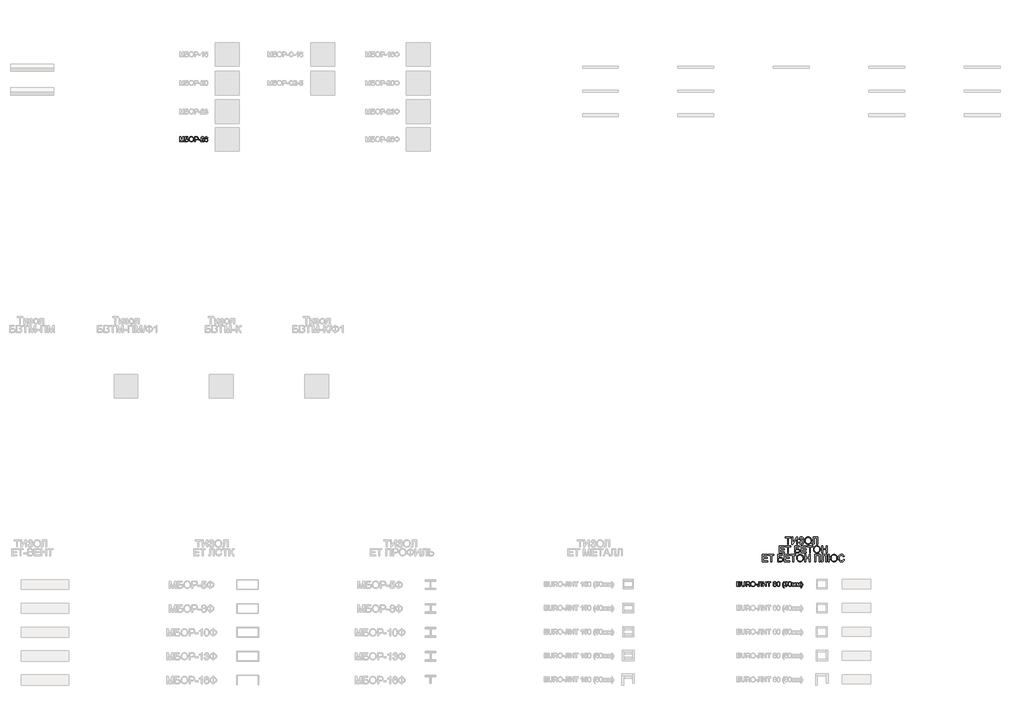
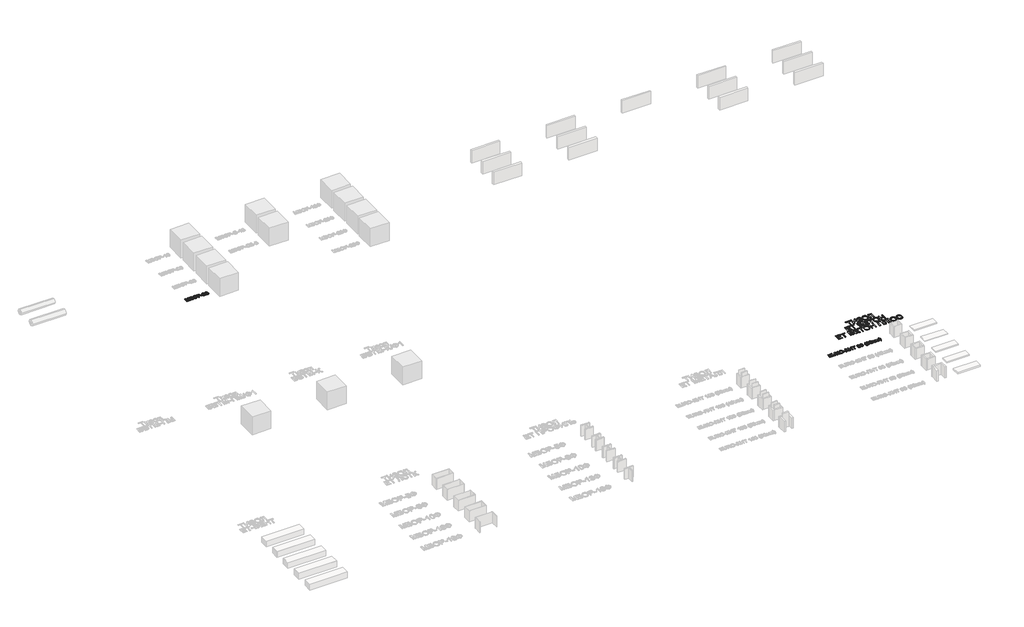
# One storey, part 21 of 35: 3 proxies.
"""IFC4 building model written with IfcOpenShell, lengths in millimetres."""

import ifcopenshell
import ifcopenshell.guid

model = None  # the IFC model being written
_history = None  # IfcOwnerHistory: only IFC2X3 demands one
_inside = {}  # id of a spatial element -> (the spatial element, [elements in it])
_under = {}  # id of a project, library or spatial element -> (it, [spatial elements below it])
_declared = {}  # id of a project -> (the project, [libraries it declares])
_typed = {}  # id of a type object -> (the type object, [elements of that type])
_made_of = {}  # id of a material, layer set ... -> (it, [elements and type objects made of it])


def new_model(schema):
    """Start an empty IFC model of exactly this schema.

    Asked for "IFC4X3", IfcOpenShell would pick the latest addendum, in which some entities
    have other attributes; the version numbers below select the first issue.
    IFC2X3 requires an IfcOwnerHistory on every rooted entity: one is made here for all.
    """
    global model, _history
    if schema == "IFC4X3":
        model = ifcopenshell.file(schema_version=(4, 3, 0, 0))
    else:
        model = ifcopenshell.file(schema=schema)
    _inside.clear()
    _under.clear()
    _declared.clear()
    _typed.clear()
    _made_of.clear()
    _history = None
    if model.schema == "IFC2X3":
        org = make("IfcOrganization", Name="unknown")
        user = make(
            "IfcPersonAndOrganization",
            ThePerson=make("IfcPerson", FamilyName="unknown"),
            TheOrganization=org,
        )
        app = make(
            "IfcApplication",
            ApplicationDeveloper=org,
            Version="unknown",
            ApplicationFullName="unknown",
            ApplicationIdentifier="unknown",
        )
        _history = make(
            "IfcOwnerHistory",
            OwningUser=user,
            OwningApplication=app,
            ChangeAction="ADDED",
            CreationDate=0,
        )
    return model


def make(cls, **values):
    """One entity of the class cls with the attributes given. An attribute that is None is left unset."""
    return model.create_entity(
        cls, **{name: value for name, value in values.items() if value is not None}
    )


def rooted(cls, **values):
    """An entity with a GlobalId (a new one), such as an element, a storey or a relation."""
    return make(cls, GlobalId=ifcopenshell.guid.new(), OwnerHistory=_history, **values)


def si_unit(unit_type, name, prefix=None):
    """IfcSIUnit, for example si_unit("LENGTHUNIT", "METRE", prefix="MILLI")."""
    return make("IfcSIUnit", UnitType=unit_type, Prefix=prefix, Name=name)


def assignment(units):
    """IfcUnitAssignment: the units of a project."""
    return None if units is None else make("IfcUnitAssignment", Units=units)


def point(xyz):
    """IfcCartesianPoint."""
    return None if xyz is None else make("IfcCartesianPoint", Coordinates=xyz)


def direction(xyz):
    """IfcDirection."""
    return None if xyz is None else make("IfcDirection", DirectionRatios=xyz)


def frame(location, z_axis=None, x_axis=None):
    """IfcAxis2Placement3D, a coordinate frame: its origin and axes. An axis left out is left unset."""
    return make(
        "IfcAxis2Placement3D",
        Location=point(location),
        Axis=direction(z_axis),
        RefDirection=direction(x_axis),
    )


def origin():
    """The frame at (0, 0, 0) with its axes left unset."""
    return frame((0.0, 0.0, 0.0))


def origin_with_axes():
    """The frame at (0, 0, 0) with the z axis (0, 0, 1) and the x axis (1, 0, 0) written out."""
    return frame((0.0, 0.0, 0.0), z_axis=(0.0, 0.0, 1.0), x_axis=(1.0, 0.0, 0.0))


def place(relative_to, where):
    """IfcLocalPlacement: puts the frame where relative to a parent placement (None: the world)."""
    return make(
        "IfcLocalPlacement", PlacementRelTo=relative_to, RelativePlacement=where
    )


def context(
    kind, dimensions, precision=None, world=None, true_north=None, identifier=None
):
    """IfcGeometricRepresentationContext, for example the 3D "Model" context."""
    return make(
        "IfcGeometricRepresentationContext",
        ContextIdentifier=identifier,
        ContextType=kind,
        CoordinateSpaceDimension=dimensions,
        Precision=precision,
        WorldCoordinateSystem=world,
        TrueNorth=true_north,
    )


def project(units=None, contexts=None):
    """IfcProject with its units and contexts."""
    return rooted(
        "IfcProject",
        Name="project",
        RepresentationContexts=contexts,
        UnitsInContext=assignment(units),
    )


def spatial(cls, under=None, at=None, **own):
    """A site, building, storey or space (cls), placed at a placement, below another one or the project."""
    s = rooted(cls, ObjectPlacement=at, **own)
    if under is not None:
        _under.setdefault(under.id(), (under, []))[1].append(s)
    return s


def polyline(points):
    """IfcPolyline through the points."""
    return make("IfcPolyline", Points=[point(p) for p in points])


def outline(outer, holes=None, kind="AREA"):
    """IfcArbitraryClosedProfileDef: a profile drawn as a closed curve; with holes, ...WithVoids."""
    if holes is None:
        return make("IfcArbitraryClosedProfileDef", ProfileType=kind, OuterCurve=outer)
    return make(
        "IfcArbitraryProfileDefWithVoids",
        ProfileType=kind,
        OuterCurve=outer,
        InnerCurves=holes,
    )


def extrude(swept, where, along, depth):
    """IfcExtrudedAreaSolid: the profile swept, set in the frame where, extruded along a direction by depth."""
    return make(
        "IfcExtrudedAreaSolid",
        SweptArea=swept,
        Position=where,
        ExtrudedDirection=direction(along),
        Depth=depth,
    )


def shape(context_of_items, identifier, shape_type, items):
    """IfcShapeRepresentation: the items that make up one representation, for example the "Body"."""
    return make(
        "IfcShapeRepresentation",
        ContextOfItems=context_of_items,
        RepresentationIdentifier=identifier,
        RepresentationType=shape_type,
        Items=items,
    )


def made_of(thing, what):
    """Note that an element or type object is made of a material, layer set ...; save() writes the relation."""
    if what is not None:
        _made_of.setdefault(what.id(), (what, []))[1].append(thing)
    return thing


def element(
    cls,
    number,
    at=None,
    inside=None,
    cuts=None,
    type_object=None,
    material=None,
    context=None,
    identifier="Body",
    shape_type=None,
    held_by="IfcProductDefinitionShape",
    body=None,
    shapes=None,
    **own,
):
    """One element of the class cls, such as IfcWall. Its Tag is "e" and its number.

    at: its placement. inside: the storey or other place that contains it. cuts: it is an
    opening in that element (IfcRelVoidsElement). A single representation is given by context,
    identifier, shape_type and body (its items); several are given by shapes. held_by: the class
    of the entity that holds the representations. save() writes the other relations.
    """
    e = rooted(cls, Tag="e%d" % number, ObjectPlacement=at, **own)
    if body is not None:
        shapes = [shape(context, identifier, shape_type, body)]
    if shapes is not None:
        e.Representation = make(held_by, Representations=shapes)
    if inside is not None:
        _inside.setdefault(inside.id(), (inside, []))[1].append(e)
    if cuts is not None:
        rooted(
            "IfcRelVoidsElement", RelatingBuildingElement=cuts, RelatedOpeningElement=e
        )
    if type_object is not None:
        _typed.setdefault(type_object.id(), (type_object, []))[1].append(e)
    return made_of(e, material)


def aggregate(whole, parts):
    """IfcRelAggregates: a whole, such as a stair, and the parts it consists of."""
    return rooted("IfcRelAggregates", RelatingObject=whole, RelatedObjects=parts)


def save(model, path):
    """Write the relations noted so far, then the file.

    IfcRelAggregates (storeys below a building ...), IfcRelContainedInSpatialStructure (elements
    in a storey), IfcRelDefinesByType, IfcRelAssociatesMaterial and IfcRelDeclares: one each for
    every whole, place, type object, material and project.
    """
    for whole, parts in _under.values():
        aggregate(whole, parts)
    for where, things in _inside.values():
        rooted(
            "IfcRelContainedInSpatialStructure",
            RelatedElements=things,
            RelatingStructure=where,
        )
    for kind, things in _typed.values():
        rooted("IfcRelDefinesByType", RelatedObjects=things, RelatingType=kind)
    for what, things in _made_of.values():
        rooted("IfcRelAssociatesMaterial", RelatedObjects=things, RelatingMaterial=what)
    for by, libraries in _declared.values():
        rooted("IfcRelDeclares", RelatingContext=by, RelatedDefinitions=libraries)
    model.write(path)


model = new_model("IFC4")

# Units and contexts
model_context = context("Model", 3, world=origin())
ifc_project = project(units=[si_unit("LENGTHUNIT", "METRE", prefix="MILLI")], contexts=[model_context])

# Site, building, storey
site = spatial("IfcSite", under=ifc_project)
building = spatial("IfcBuilding", under=site)
storey = spatial("IfcBuildingStorey", under=building, Name="Этаж 01", Elevation=0.0)

# Proxies
placement = place(None, origin())
element("IfcBuildingElementProxy", 1, Name="600 мм Arial", ObjectType="600 мм Arial", at=placement, inside=storey, context=model_context, shape_type="SweptSolid", body=[
    extrude(outline(polyline([(33632.8246338, -47460.4053349), (33632.8246338, -47196.7075208), (33533.9379535, -47196.7075208), (33533.9379535, -47159.0364045), (33769.3824304, -47159.0364045), (33769.3824304, -47196.7075208), (33670.4957501, -47196.7075208), (33670.4957501, -47460.4053349), (33632.8246338, -47460.4053349)])), origin_with_axes(), (0.0, 0.0, 1.0), 20.0),
    extrude(outline(polyline([(33811.7624363, -47159.0364045), (33849.4335526, -47159.0364045), (33849.4335526, -47397.7182429), (34007.1813521, -47159.0364045), (34047.2069132, -47159.0364045), (34047.2069132, -47460.4053349), (34009.5357969, -47460.4053349), (34009.5357969, -47222.385684), (33852.1558793, -47460.4053349), (33811.7624363, -47460.4053349), (33811.7624363, -47159.0364045)])), origin_with_axes(), (0.0, 0.0, 1.0), 20.0),
    extrude(outline(polyline([(34099.0046981, -47375.6453232), (34136.6758144, -47366.2275442), (34144.6312626, -47386.6174037), (34159.8155919, -47407.0256574), (34181.6769795, -47422.3387455), (34209.6636023, -47427.4431081), (34238.018107, -47423.6079383), (34259.6587654, -47412.102429), (34273.3715668, -47395.1706601), (34277.9425006, -47375.056712), (34272.9485025, -47353.9862708), (34257.9665082, -47337.7166895), (34234.3760753, -47327.3148261), (34203.5567611, -47323.8475383), (34183.7647098, -47323.8475383), (34183.7647098, -47286.176422), (34226.402233, -47283.1230014), (34240.2989754, -47277.696742), (34252.4850665, -47267.5248048), (34260.9831406, -47254.1247032), (34263.8158319, -47239.0139502), (34260.0450415, -47221.272841), (34248.7326701, -47206.0149353), (34230.9823639, -47195.5027072), (34207.8977687, -47191.9986312), (34187.0296625, -47194.6933669), (34169.4541002, -47202.7775737), (34155.9896192, -47215.3131527), (34147.4547569, -47231.3620047), (34141.384704, -47257.9230848), (34103.7135876, -47248.5053057), (34115.4168336, -47207.3025222), (34124.8311638, -47191.1157144), (34136.6206321, -47177.8719626), (34150.7852386, -47167.5712668), (34167.3249831, -47160.2136269), (34186.2398658, -47155.7990429), (34207.5298867, -47154.3275149), (34228.0416072, -47155.8565245), (34246.313846, -47160.4435531), (34262.3466032, -47168.0886008), (34276.1398788, -47178.7916676), (34287.2292217, -47191.541078), (34295.1501809, -47205.3251565), (34299.9027564, -47220.1439031), (34301.4869483, -47235.9973179), (34299.0221389, -47255.8215589), (34291.6277108, -47273.2821581), (34279.3036639, -47288.3791154), (34262.0499984, -47301.112431), (34283.000878, -47310.7601363), (34300.2361495, -47327.0481117), (34311.76925, -47348.5784054), (34315.6136169, -47373.9530661), (34313.7696084, -47392.5839898), (34308.2375829, -47409.6284225), (34299.0175404, -47425.0863641), (34286.1094809, -47438.9578146), (34270.1571978, -47450.4012439), (34251.8044848, -47458.575122), (34231.0513418, -47463.4794488), (34207.8977687, -47465.1142245), (34169.6932235, -47459.5224181), (34153.3362703, -47452.5326602), (34138.80953, -47442.7469991), (34126.1130026, -47430.1654349), (34115.2466882, -47414.7879675), (34099.0046981, -47375.6453232)])), origin_with_axes(), (0.0, 0.0, 1.0), 20.0),
    extrude(outline(polyline([(34353.2847332, -47313.6939952), (34355.7955278, -47278.345134), (34363.3279116, -47247.0521718), (34375.8818847, -47219.8151086), (34393.457447, -47196.6339444), (34415.0015364, -47178.1248815), (34439.4610905, -47164.9041223), (34466.8361095, -47156.9716668), (34497.1265933, -47154.3275149), (34536.6555137, -47159.2939219), (34572.1009439, -47174.1931427), (34601.5315035, -47197.9767137), (34623.015812, -47229.5961711), (34636.1491993, -47267.5248048), (34640.526995, -47310.2359045), (34635.919273, -47353.5172212), (34622.096107, -47391.9792838), (34599.8208522, -47423.6539236), (34569.8568637, -47446.5729719), (34534.7149361, -47460.4789113), (34496.9058641, -47465.1142245), (34456.7699384, -47459.9914677), (34421.1221731, -47444.6231973), (34391.7651899, -47420.3981679), (34370.5016105, -47388.7051341), (34357.5889525, -47352.2388313), (34353.2847332, -47313.6939952)]), holes=[polyline([(34390.9558495, -47314.0618772), (34392.8389454, -47339.0364662), (34398.4882333, -47361.2059549), (34407.9037131, -47380.5703434), (34421.0853849, -47397.1296317), (34437.108945, -47410.3917777), (34455.0500901, -47419.864739), (34474.90882, -47425.5485159), (34496.6851349, -47427.4431081), (34518.8339303, -47425.5301218), (34538.927185, -47419.7911626), (34556.9648991, -47410.2262308), (34572.9470725, -47396.8353262), (34586.0321752, -47379.9265499), (34595.3786771, -47359.8080033), (34600.9865783, -47336.4796863), (34602.8558787, -47309.9415989), (34599.6553053, -47276.593096), (34590.0535853, -47247.7695417), (34574.2990388, -47224.1975029), (34552.6399864, -47206.6035464), (34526.5111677, -47195.64986), (34497.3473225, -47191.9986312), (34476.327465, -47193.757567), (34456.8251207, -47199.0343744), (34438.8402897, -47207.8290533), (34422.3729719, -47220.1416039), (34408.6279808, -47236.5652357), (34398.8101301, -47257.6931585), (34392.9194196, -47283.5253724), (34390.9558495, -47314.0618772)])]), origin_with_axes(), (0.0, 0.0, 1.0), 20.0),
    extrude(outline(polyline([(34715.8692276, -47159.0364045), (34899.5159196, -47159.0364045), (34899.5159196, -47460.4053349), (34861.8448033, -47460.4053349), (34861.8448033, -47196.7075208), (34753.5403439, -47196.7075208), (34753.5403439, -47350.4821948), (34749.1625482, -47419.0921869), (34742.3843224, -47438.479568), (34730.8052366, -47453.0109068), (34714.9495226, -47462.088395), (34695.3414123, -47465.1142245), (34664.0714427, -47460.4053349), (34668.7803322, -47422.7342186), (34686.80655, -47427.4431081), (34699.5444641, -47424.9139194), (34708.6219523, -47417.3263533), (34714.0574088, -47400.3577963), (34715.8692276, -47369.6856349), (34715.8692276, -47159.0364045)])), origin_with_axes(), (0.0, 0.0, 1.0), 20.0),
    extrude(outline(polyline([(33279.6579184, -47826.3297885), (33279.6579184, -47524.960858), (33496.2668372, -47524.960858), (33496.2668372, -47562.6319743), (33317.3290348, -47562.6319743), (33317.3290348, -47652.1008755), (33486.8490581, -47652.1008755), (33486.8490581, -47689.7719918), (33317.3290348, -47689.7719918), (33317.3290348, -47788.6586721), (33500.9757267, -47788.6586721), (33500.9757267, -47826.3297885), (33279.6579184, -47826.3297885)])), origin_with_axes(), (0.0, 0.0, 1.0), 20.0),
    extrude(outline(polyline([(33632.8246338, -47826.3297885), (33632.8246338, -47562.6319743), (33533.9379535, -47562.6319743), (33533.9379535, -47524.960858), (33769.3824304, -47524.960858), (33769.3824304, -47562.6319743), (33670.4957501, -47562.6319743), (33670.4957501, -47826.3297885), (33632.8246338, -47826.3297885)])), origin_with_axes(), (0.0, 0.0, 1.0), 20.0),
    extrude(outline(polyline([(33929.4846747, -47524.960858), (34117.8402563, -47524.960858), (34117.8402563, -47562.6319743), (33967.155791, -47562.6319743), (33967.155791, -47652.1008755), (34037.7155577, -47652.1008755), (34072.793106, -47654.0138619), (34099.8876149, -47659.752821), (34120.6913417, -47670.807675), (34136.8965436, -47688.6683459), (34147.3259982, -47711.6609706), (34150.802483, -47738.111686), (34148.3284766, -47760.3225615), (34140.9064574, -47781.0435148), (34128.5732135, -47799.1892943), (34111.3655331, -47813.6746478), (34084.8228472, -47823.1660033), (34044.4845864, -47826.3297885), (33929.4846747, -47826.3297885), (33929.4846747, -47524.960858)]), holes=[polyline([(33967.155791, -47788.6586721), (34047.8691008, -47788.6586721), (34076.3983495, -47785.5500693), (34096.7974061, -47776.2242607), (34109.0478766, -47760.6812464), (34113.1313667, -47738.9210264), (34110.7953161, -47722.7158245), (34103.787164, -47709.4168904), (34092.6127484, -47699.5576529), (34077.777907, -47693.671541), (34021.0137151, -47689.7719918), (33967.155791, -47689.7719918), (33967.155791, -47788.6586721)])]), origin_with_axes(), (0.0, 0.0, 1.0), 20.0),
    extrude(outline(polyline([(34202.6002679, -47826.3297885), (34202.6002679, -47524.960858), (34419.2091867, -47524.960858), (34419.2091867, -47562.6319743), (34240.2713843, -47562.6319743), (34240.2713843, -47652.1008755), (34409.7914076, -47652.1008755), (34409.7914076, -47689.7719918), (34240.2713843, -47689.7719918), (34240.2713843, -47788.6586721), (34423.9180762, -47788.6586721), (34423.9180762, -47826.3297885), (34202.6002679, -47826.3297885)])), origin_with_axes(), (0.0, 0.0, 1.0), 20.0),
    extrude(outline(polyline([(34555.7669833, -47826.3297885), (34555.7669833, -47562.6319743), (34456.880303, -47562.6319743), (34456.880303, -47524.960858), (34692.3247799, -47524.960858), (34692.3247799, -47562.6319743), (34593.4380996, -47562.6319743), (34593.4380996, -47826.3297885), (34555.7669833, -47826.3297885)])), origin_with_axes(), (0.0, 0.0, 1.0), 20.0),
    extrude(outline(polyline([(34720.5781172, -47679.6184488), (34723.0889118, -47644.2695876), (34730.6212956, -47612.9766253), (34743.1752687, -47585.7395621), (34760.750831, -47562.5583979), (34782.2949204, -47544.049335), (34806.7544745, -47530.8285758), (34834.1294935, -47522.8961203), (34864.4199773, -47520.2519685), (34903.9488977, -47525.2183754), (34939.3943279, -47540.1175962), (34968.8248875, -47563.9011672), (34990.309196, -47595.5206247), (35003.4425832, -47633.4492584), (35007.820379, -47676.160358), (35003.212657, -47719.4416748), (34989.389491, -47757.9037373), (34967.1142362, -47789.5783771), (34937.1502477, -47812.4974254), (34902.0083201, -47826.4033649), (34864.1992481, -47831.038678), (34824.0633224, -47825.9159212), (34788.4155571, -47810.5476509), (34759.0585739, -47786.3226215), (34737.7949945, -47754.6295876), (34724.8823365, -47718.1632848), (34720.5781172, -47679.6184488)]), holes=[polyline([(34758.2492335, -47679.9863308), (34760.1323294, -47704.9609197), (34765.7816173, -47727.1304085), (34775.1970971, -47746.494797), (34788.3787689, -47763.0540853), (34804.402329, -47776.3162312), (34822.3434741, -47785.7891926), (34842.202204, -47791.4729694), (34863.9785189, -47793.3675617), (34886.1273142, -47791.4545753), (34906.220569, -47785.7156162), (34924.258283, -47776.1506843), (34940.2404565, -47762.7597797), (34953.3255592, -47745.8510035), (34962.6720611, -47725.7324569), (34968.2799623, -47702.4041399), (34970.1492627, -47675.8660524), (34966.9486893, -47642.5175496), (34957.3469693, -47613.6939952), (34941.5924228, -47590.1219564), (34919.9333703, -47572.528), (34893.8045516, -47561.5743136), (34864.6407065, -47557.9230848), (34843.620849, -47559.6820206), (34824.1185047, -47564.9588279), (34806.1336737, -47573.7535069), (34789.6663559, -47586.0660574), (34775.9213648, -47602.4896892), (34766.1035141, -47623.6176121), (34760.2128036, -47649.4498259), (34758.2492335, -47679.9863308)])]), origin_with_axes(), (0.0, 0.0, 1.0), 20.0),
    extrude(outline(polyline([(35059.6181639, -47826.3297885), (35059.6181639, -47524.960858), (35097.2892802, -47524.960858), (35097.2892802, -47647.391986), (35257.3915245, -47647.391986), (35257.3915245, -47524.960858), (35295.0626408, -47524.960858), (35295.0626408, -47826.3297885), (35257.3915245, -47826.3297885), (35257.3915245, -47685.0631023), (35097.2892802, -47685.0631023), (35097.2892802, -47826.3297885), (35059.6181639, -47826.3297885)])), origin_with_axes(), (0.0, 0.0, 1.0), 20.0),
    extrude(outline(polyline([(32570.9700429, -48192.254242), (32570.9700429, -47890.8853115), (32787.5789617, -47890.8853115), (32787.5789617, -47928.5564278), (32608.6411592, -47928.5564278), (32608.6411592, -48018.0253291), (32778.1611826, -48018.0253291), (32778.1611826, -48055.6964454), (32608.6411592, -48055.6964454), (32608.6411592, -48154.5831257), (32792.2878512, -48154.5831257), (32792.2878512, -48192.254242), (32570.9700429, -48192.254242)])), origin_with_axes(), (0.0, 0.0, 1.0), 20.0),
    extrude(outline(polyline([(32924.1367583, -48192.254242), (32924.1367583, -47928.5564278), (32825.250078, -47928.5564278), (32825.250078, -47890.8853115), (33060.6945549, -47890.8853115), (33060.6945549, -47928.5564278), (32961.8078746, -47928.5564278), (32961.8078746, -48192.254242), (32924.1367583, -48192.254242)])), origin_with_axes(), (0.0, 0.0, 1.0), 20.0),
    extrude(outline(polyline([(33220.7967992, -47890.8853115), (33409.1523808, -47890.8853115), (33409.1523808, -47928.5564278), (33258.4679155, -47928.5564278), (33258.4679155, -48018.0253291), (33329.0276822, -48018.0253291), (33364.1052304, -48019.9383154), (33391.1997394, -48025.6772746), (33412.0034662, -48036.7321285), (33428.2086681, -48054.5927994), (33438.6381227, -48077.5854241), (33442.1146075, -48104.0361395), (33439.6406011, -48126.247015), (33432.2185818, -48146.9679684), (33419.885338, -48165.1137478), (33402.6776576, -48179.5991014), (33376.1349717, -48189.0904568), (33335.7967109, -48192.254242), (33220.7967992, -48192.254242), (33220.7967992, -47890.8853115)]), holes=[polyline([(33258.4679155, -48154.5831257), (33339.1812253, -48154.5831257), (33367.710474, -48151.4745228), (33388.1095306, -48142.1487142), (33400.3600011, -48126.6056999), (33404.4434912, -48104.8454799), (33402.1074405, -48088.640278), (33395.0992885, -48075.3413439), (33383.9248729, -48065.4821065), (33369.0900315, -48059.5959945), (33312.3258396, -48055.6964454), (33258.4679155, -48055.6964454), (33258.4679155, -48154.5831257)])]), origin_with_axes(), (0.0, 0.0, 1.0), 20.0),
    extrude(outline(polyline([(33493.9123924, -48192.254242), (33493.9123924, -47890.8853115), (33710.5213112, -47890.8853115), (33710.5213112, -47928.5564278), (33531.5835087, -47928.5564278), (33531.5835087, -48018.0253291), (33701.1035321, -48018.0253291), (33701.1035321, -48055.6964454), (33531.5835087, -48055.6964454), (33531.5835087, -48154.5831257), (33715.2302007, -48154.5831257), (33715.2302007, -48192.254242), (33493.9123924, -48192.254242)])), origin_with_axes(), (0.0, 0.0, 1.0), 20.0),
    extrude(outline(polyline([(33847.0791078, -48192.254242), (33847.0791078, -47928.5564278), (33748.1924275, -47928.5564278), (33748.1924275, -47890.8853115), (33983.6369044, -47890.8853115), (33983.6369044, -47928.5564278), (33884.7502241, -47928.5564278), (33884.7502241, -48192.254242), (33847.0791078, -48192.254242)])), origin_with_axes(), (0.0, 0.0, 1.0), 20.0),
    extrude(outline(polyline([(34011.8902416, -48045.5429023), (34014.4010363, -48010.1940411), (34021.9334201, -47978.9010789), (34034.4873932, -47951.6640157), (34052.0629555, -47928.4828514), (34073.6070449, -47909.9737886), (34098.066599, -47896.7530294), (34125.441618, -47888.8205738), (34155.7321018, -47886.176422), (34195.2610221, -47891.1428289), (34230.7064524, -47906.0420497), (34260.137012, -47929.8256207), (34281.6213205, -47961.4450782), (34294.7547077, -47999.3737119), (34299.1325035, -48042.0848116), (34294.5247815, -48085.3661283), (34280.7016155, -48123.8281909), (34258.4263607, -48155.5028307), (34228.4623722, -48178.421879), (34193.3204446, -48192.3278184), (34155.5113726, -48196.9631315), (34115.3754469, -48191.8403747), (34079.7276816, -48176.4721044), (34050.3706983, -48152.247075), (34029.107119, -48120.5540411), (34016.194461, -48084.0877384), (34011.8902416, -48045.5429023)]), holes=[polyline([(34049.561358, -48045.9107843), (34051.4444539, -48070.8853733), (34057.0937418, -48093.054862), (34066.5092216, -48112.4192505), (34079.6908934, -48128.9785388), (34095.7144535, -48142.2406847), (34113.6555986, -48151.7136461), (34133.5143285, -48157.3974229), (34155.2906434, -48159.2920152), (34177.4394387, -48157.3790288), (34197.5326935, -48151.6400697), (34215.5704075, -48142.0751378), (34231.552581, -48128.6842332), (34244.6376837, -48111.775457), (34253.9841856, -48091.6569104), (34259.5920868, -48068.3285934), (34261.4613872, -48041.790506), (34258.2608138, -48008.4420031), (34248.6590937, -47979.6184488), (34232.9045473, -47956.0464099), (34211.2454948, -47938.4524535), (34185.1166761, -47927.4987671), (34155.952831, -47923.8475383), (34134.9329735, -47925.6064741), (34115.4306292, -47930.8832815), (34097.4457982, -47939.6779604), (34080.9784803, -47951.9905109), (34067.2334893, -47968.4141428), (34057.4156386, -47989.5420656), (34051.5249281, -48015.3742794), (34049.561358, -48045.9107843)])]), origin_with_axes(), (0.0, 0.0, 1.0), 20.0),
    extrude(outline(polyline([(34350.9302884, -48192.254242), (34350.9302884, -47890.8853115), (34388.6014047, -47890.8853115), (34388.6014047, -48013.3164395), (34548.703649, -48013.3164395), (34548.703649, -47890.8853115), (34586.3747653, -47890.8853115), (34586.3747653, -48192.254242), (34548.703649, -48192.254242), (34548.703649, -48050.9875558), (34388.6014047, -48050.9875558), (34388.6014047, -48192.254242), (34350.9302884, -48192.254242)])), origin_with_axes(), (0.0, 0.0, 1.0), 20.0),
    extrude(outline(polyline([(34770.0214573, -47890.8853115), (35005.4659342, -47890.8853115), (35005.4659342, -48192.254242), (34967.7948179, -48192.254242), (34967.7948179, -47928.5564278), (34807.6925736, -47928.5564278), (34807.6925736, -48192.254242), (34770.0214573, -48192.254242), (34770.0214573, -47890.8853115)])), origin_with_axes(), (0.0, 0.0, 1.0), 20.0),
    extrude(outline(polyline([(35094.9348354, -47890.8853115), (35278.5815274, -47890.8853115), (35278.5815274, -48192.254242), (35240.9104111, -48192.254242), (35240.9104111, -47928.5564278), (35132.6059518, -47928.5564278), (35132.6059518, -48082.3311018), (35128.228156, -48150.9410939), (35121.4499303, -48170.3284751), (35109.8708445, -48184.8598139), (35094.0151305, -48193.9373021), (35074.4070201, -48196.9631315), (35043.1370505, -48192.254242), (35047.8459401, -48154.5831257), (35065.8721578, -48159.2920152), (35078.6100719, -48156.7628265), (35087.6875601, -48149.1752604), (35093.1230166, -48132.2067033), (35094.9348354, -48101.534542), (35094.9348354, -47890.8853115)])), origin_with_axes(), (0.0, 0.0, 1.0), 20.0),
    extrude(outline(polyline([(35344.505981, -47890.8853115), (35382.1770973, -47890.8853115), (35382.1770973, -48022.7342186), (35438.6837717, -48022.7342186), (35443.0270785, -47993.119718), (35451.642415, -47966.6690025), (35464.5297812, -47943.3820723), (35481.689177, -47923.2589271), (35502.1365181, -47907.0353311), (35524.8877203, -47895.4470483), (35549.9427834, -47888.4940786), (35577.3017075, -47886.176422), (35606.1022692, -47888.7653915), (35632.3184599, -47896.5323002), (35655.9502796, -47909.4771479), (35676.9977282, -47927.5999347), (35694.2835835, -47950.1556995), (35706.6306229, -47976.3994813), (35714.0388466, -48006.3312802), (35716.5082545, -48039.951096), (35714.0365473, -48074.8378054), (35706.6214259, -48105.7008056), (35694.2628901, -48132.5400964), (35676.96094, -48155.3556779), (35655.8100246, -48173.5589388), (35631.9045927, -48186.5612681), (35605.2446443, -48194.3626657), (35575.8301795, -48196.9631315), (35549.002385, -48194.6960587), (35524.5106412, -48187.8948403), (35502.3549481, -48176.5594764), (35482.5353056, -48160.6899668), (35465.8058718, -48140.8197405), (35452.920805, -48117.4822265), (35443.8801049, -48090.6774246), (35438.6837717, -48060.4053349), (35382.1770973, -48060.4053349), (35382.1770973, -48192.254242), (35344.505981, -48192.254242), (35344.505981, -47890.8853115)]), holes=[polyline([(35476.354888, -48043.1884575), (35478.0954297, -48069.2345028), (35483.3170548, -48092.1903393), (35492.0197633, -48112.055967), (35504.2035551, -48128.831386), (35519.2154397, -48142.1579113), (35536.4024267, -48151.6768579), (35555.764516, -48157.3882259), (35577.3017075, -48159.2920152), (35599.2757589, -48157.3813281), (35618.9183582, -48151.6492668), (35636.2295054, -48142.0958312), (35651.2092004, -48128.7210214), (35663.2964232, -48111.7593622), (35671.9301537, -48091.4453783), (35677.1103921, -48067.7790697), (35678.8371382, -48040.7604364), (35677.1379832, -48015.0178938), (35672.0405183, -47992.1632248), (35663.5447435, -47972.1964295), (35651.6506588, -47955.1175079), (35636.8595033, -47941.4368962), (35619.6725163, -47931.6650307), (35600.0896979, -47925.8019114), (35578.1110479, -47923.8475383), (35555.7714138, -47925.8272033), (35535.9149831, -47931.7661983), (35518.5417558, -47941.6645232), (35503.6517321, -47955.5221781), (35491.7093628, -47972.8793105), (35483.1790991, -47993.2760678), (35478.0609408, -48016.7124502), (35476.354888, -48043.1884575)])]), origin_with_axes(), (0.0, 0.0, 1.0), 20.0),
    extrude(outline(polyline([(35980.2060686, -48085.127005), (36017.8771849, -48094.8390897), (36010.422976, -48118.266275), (36000.4947607, -48138.7366087), (35988.0925389, -48156.250091), (35973.2163107, -48170.8067217), (35956.2017685, -48182.250151), (35937.3846044, -48190.4240291), (35916.7648186, -48195.3283559), (35894.342411, -48196.9631315), (35850.647227, -48192.0151187), (35815.9467578, -48177.1710802), (35789.3488895, -48152.9460508), (35769.9615084, -48119.8550653), (35758.1249052, -48080.9515443), (35754.1793708, -48039.2889084), (35758.63994, -47995.3454041), (35772.0216476, -47957.3983763), (35793.6255177, -47926.6526385), (35822.7525747, -47904.3130044), (35857.2966941, -47890.7105676), (35895.1517514, -47886.176422), (35936.4557024, -47892.0441398), (35954.4244386, -47899.3787871), (35970.6043486, -47909.6472933), (35984.7287179, -47922.5783454), (35996.5308322, -47937.9006305), (36013.1682954, -47975.7188996), (35975.4971791, -47984.6952203), (35962.4373683, -47957.2236323), (35944.5950915, -47938.3788771), (35921.7496196, -47927.480373), (35893.6802234, -47923.8475383), (35861.3250019, -47927.8758462), (35834.7455277, -47939.9607697), (35814.5763974, -47958.833116), (35801.4522072, -47983.2236923), (35794.2509171, -48010.7964479), (35791.8504871, -48039.215332), (35794.6923755, -48074.0169687), (35803.2180408, -48104.1097159), (35817.7493796, -48128.3439424), (35838.6082887, -48145.5700168), (35863.6150673, -48155.8615156), (35890.5900146, -48159.2920152), (35922.0347282, -48154.6199139), (35948.2371233, -48140.6036099), (35968.0199776, -48117.390256), (35980.2060686, -48085.127005)])), origin_with_axes(), (0.0, 0.0, 1.0), 20.0),
])
element("IfcBuildingElementProxy", 2, Name="400 мм Arial", ObjectType="400 мм Arial", at=placement, inside=storey, context=model_context, shape_type="SweptSolid", body=[
    extrude(outline(polyline([(31509.8248691, -49230.4960856), (31509.8248691, -49029.5834653), (31654.2308149, -49029.5834653), (31654.2308149, -49054.6975429), (31534.9389466, -49054.6975429), (31534.9389466, -49114.343477), (31647.9522956, -49114.343477), (31647.9522956, -49139.4575546), (31534.9389466, -49139.4575546), (31534.9389466, -49205.3820081), (31657.3700746, -49205.3820081), (31657.3700746, -49230.4960856), (31509.8248691, -49230.4960856)])), origin_with_axes(), (0.0, 0.0, 1.0), 20.0),
    extrude(outline(polyline([(31826.890098, -49029.5834653), (31852.0041756, -49029.5834653), (31852.0041756, -49145.4908193), (31850.2996556, -49172.6343792), (31845.1860959, -49193.5362079), (31835.6334268, -49209.661702), (31820.6115786, -49222.4762582), (31800.0837633, -49230.8455735), (31774.0131926, -49233.6353453), (31748.5128389, -49231.2073242), (31728.126045, -49223.9232607), (31712.8466795, -49212.0345409), (31702.668611, -49195.7925508), (31696.948046, -49174.0078053), (31695.0411909, -49145.4908193), (31695.0411909, -49029.5834653), (31720.1552685, -49029.5834653), (31720.1552685, -49144.6079025), (31721.3938045, -49167.1774629), (31725.1094127, -49182.8921555), (31731.8416532, -49193.7753312), (31742.1300863, -49201.850341), (31755.5455164, -49206.8535361), (31771.6587478, -49208.5212678), (31797.202021, -49205.2225926), (31814.1859065, -49195.3265669), (31823.7140501, -49176.0495504), (31826.890098, -49144.6079025), (31826.890098, -49029.5834653)])), origin_with_axes(), (0.0, 0.0, 1.0), 20.0),
    extrude(outline(polyline([(31895.9538112, -49230.4960856), (31895.9538112, -49029.5834653), (31982.5287074, -49029.5834653), (32005.7972436, -49030.9384974), (32022.7259468, -49035.0035934), (32035.0990446, -49042.5083861), (32044.7007646, -49054.1825081), (32050.862788, -49068.6586646), (32052.9167959, -49084.5695609), (32049.5138874, -49104.3616122), (32039.305162, -49120.7691492), (32021.9840514, -49132.7988905), (31997.2439873, -49139.4575546), (32011.5178087, -49150.1997088), (32031.8739457, -49176.0495504), (32065.3757328, -49230.4960856), (32036.1904278, -49230.4960856), (32010.0462807, -49188.8518438), (31991.1616716, -49161.2852196), (31977.8933943, -49148.262197), (31965.9494922, -49143.4797311), (31951.3813652, -49142.5968143), (31921.0678888, -49142.5968143), (31921.0678888, -49230.4960856), (31895.9538112, -49230.4960856)]), holes=[polyline([(31921.0678888, -49117.4827367), (31977.2802576, -49117.4827367), (32005.9505278, -49113.9265441), (32015.3805696, -49109.3034937), (32022.2354375, -49102.5467277), (32027.8027183, -49085.5015286), (32025.1478366, -49073.2510582), (32017.1831914, -49063.379558), (32003.4795871, -49056.8680467), (31983.607828, -49054.6975429), (31921.0678888, -49054.6975429), (31921.0678888, -49117.4827367)])]), origin_with_axes(), (0.0, 0.0, 1.0), 20.0),
    extrude(outline(polyline([(32087.4486525, -49132.6885259), (32089.1225155, -49109.1226184), (32094.1441048, -49088.2606436), (32102.5134202, -49070.1026014), (32114.2304617, -49054.648492), (32128.5931879, -49042.3091167), (32144.8995574, -49033.4952772), (32163.14957, -49028.2069736), (32183.3432259, -49026.4442057), (32209.6958395, -49029.7551436), (32233.3261263, -49039.6879575), (32252.9464994, -49055.5436715), (32267.2693717, -49076.6233098), (32276.0249632, -49101.9090656), (32278.9434937, -49130.383132), (32275.871679, -49159.2373432), (32266.6562351, -49184.8787182), (32251.8060652, -49205.9951448), (32231.8300728, -49221.2745103), (32208.4021211, -49230.5451366), (32183.1960731, -49233.6353453), (32156.4387893, -49230.2201742), (32132.6736124, -49219.9746606), (32113.1022903, -49203.824641), (32098.9265707, -49182.6959517), (32090.318132, -49158.3850832), (32087.4486525, -49132.6885259)]), holes=[polyline([(32112.56273, -49132.9337805), (32117.5843192, -49164.3631656), (32132.6490869, -49188.3122835), (32155.2922237, -49203.4690217), (32183.0489203, -49208.5212678), (32211.210287, -49203.4199708), (32233.890212, -49188.1160798), (32242.6136138, -49176.8435623), (32248.8446151, -49163.4311979), (32253.8294162, -49130.1869283), (32251.6957006, -49107.9545931), (32245.2945539, -49088.7388902), (32234.7915229, -49073.0241976), (32220.3521546, -49061.2948933), (32202.9329421, -49053.9924357), (32183.4903787, -49051.5582832), (32156.4755775, -49056.2487786), (32133.5074783, -49070.3202649), (32124.3441509, -49081.2693528), (32117.7989171, -49095.3546347), (32112.56273, -49132.9337805)])]), origin_with_axes(), (0.0, 0.0, 1.0), 20.0),
    extrude(outline(polyline([(32297.7790518, -49170.8501515), (32297.7790518, -49145.736074), (32376.2605441, -49145.736074), (32376.2605441, -49170.8501515), (32297.7790518, -49170.8501515)])), origin_with_axes(), (0.0, 0.0, 1.0), 20.0),
    extrude(outline(polyline([(32423.3494395, -49029.5834653), (32545.7805675, -49029.5834653), (32545.7805675, -49230.4960856), (32520.66649, -49230.4960856), (32520.66649, -49054.6975429), (32448.4635171, -49054.6975429), (32448.4635171, -49157.2139922), (32445.5449866, -49202.9539869), (32441.0261694, -49215.8789077), (32433.3067789, -49225.5664669), (32422.7363029, -49231.6181257), (32409.6642293, -49233.6353453), (32388.8175829, -49230.4960856), (32391.9568426, -49205.3820081), (32403.9743211, -49208.5212678), (32412.4662638, -49206.835142), (32418.5179227, -49201.7767646), (32422.1415603, -49190.4643932), (32423.3494395, -49170.0162856), (32423.3494395, -49029.5834653)])), origin_with_axes(), (0.0, 0.0, 1.0), 20.0),
    extrude(outline(polyline([(32589.7302032, -49029.5834653), (32614.8442808, -49029.5834653), (32614.8442808, -49188.704691), (32720.0094804, -49029.5834653), (32746.6931878, -49029.5834653), (32746.6931878, -49230.4960856), (32721.5791103, -49230.4960856), (32721.5791103, -49071.8163184), (32616.6591653, -49230.4960856), (32589.7302032, -49230.4960856), (32589.7302032, -49029.5834653)])), origin_with_axes(), (0.0, 0.0, 1.0), 20.0),
    extrude(outline(polyline([(32840.8709786, -49230.4960856), (32840.8709786, -49054.6975429), (32774.9465251, -49054.6975429), (32774.9465251, -49029.5834653), (32931.9095097, -49029.5834653), (32931.9095097, -49054.6975429), (32865.9850561, -49054.6975429), (32865.9850561, -49230.4960856), (32840.8709786, -49230.4960856)])), origin_with_axes(), (0.0, 0.0, 1.0), 20.0),
    extrude(outline(polyline([(33065.8185559, -49119.8371815), (33052.372469, -49113.2153056), (33042.9362958, -49104.2389849), (33037.3628836, -49093.0921605), (33035.5050795, -49079.9587732), (33039.5517815, -49060.3261374), (33051.6918873, -49044.1025414), (33070.5642336, -49033.2132344), (33094.8076571, -49029.5834653), (33119.1982334, -49033.2990735), (33138.3158344, -49044.445898), (33150.6766695, -49060.9270113), (33154.7969478, -49080.6454863), (33152.9636692, -49093.3558092), (33147.4638334, -49104.3125613), (33138.2361267, -49113.2336997), (33125.2192354, -49119.8371815), (33140.6764106, -49127.8018267), (33151.9274682, -49139.531131), (33158.7884675, -49154.4610086), (33161.0754672, -49172.0273739), (33156.5382559, -49196.0378054), (33142.9266221, -49215.8789077), (33121.9082974, -49229.1962359), (33095.1510137, -49233.6353453), (33068.3937299, -49229.1778418), (33047.3754052, -49215.8053313), (33033.7637714, -49195.7741567), (33029.2265601, -49171.3406608), (33031.6055304, -49153.0937139), (33038.7424411, -49138.0841285), (33050.2694102, -49126.8269394), (33065.8185559, -49119.8371815)]), holes=[polyline([(33060.619157, -49080.6945372), (33062.8448431, -49091.6574207), (33069.5219013, -49100.4130122), (33080.4541279, -49106.1519713), (33095.4453193, -49108.0649577), (33110.0870227, -49106.164234), (33120.8537024, -49100.4620631), (33127.4755783, -49092.0007772), (33129.6828703, -49081.8227087), (33127.4020019, -49071.258364), (33120.5593968, -49062.5211667), (33109.6455643, -49056.6534488), (33095.1510137, -49054.6975429), (33080.5644925, -49056.6105293), (33069.6690541, -49062.3494884), (33062.8816313, -49070.7617233), (33060.619157, -49080.6945372)]), polyline([(33054.3406377, -49170.457744), (33058.5344924, -49189.3668786), (33064.3408966, -49197.4786766), (33073.3723995, -49203.5180727), (33095.3472174, -49208.5212678), (33112.4414674, -49205.8909115), (33125.2682863, -49197.9998427), (33133.2881138, -49186.0498093), (33135.9613897, -49171.242559), (33133.2022747, -49156.1839226), (33124.9249298, -49143.9702404), (33111.8038053, -49135.8768365), (33094.5133515, -49133.1790352), (33077.6582248, -49135.8400483), (33064.9601646, -49143.8230876), (33056.9955194, -49155.8037779), (33054.3406377, -49170.457744)])]), origin_with_axes(), (0.0, 0.0, 1.0), 20.0),
    extrude(outline(polyline([(33183.050285, -49131.6584563), (33184.8958264, -49099.4994385), (33190.4324504, -49073.8519321), (33199.6049748, -49054.3235295), (33212.3582173, -49040.5218233), (33228.7841484, -49032.3180548), (33248.9747386, -49029.5834653), (33264.4503078, -49031.2021461), (33278.3071963, -49036.0581885), (33289.8954792, -49043.96152), (33298.5652315, -49054.7220684), (33310.3374554, -49084.4469336), (33314.8991921, -49131.6584563), (33313.0720449, -49163.633533), (33307.5906031, -49189.2197258), (33298.473261, -49208.7665225), (33285.7384126, -49222.623411), (33269.2756933, -49230.8823617), (33248.9747386, -49233.6353453), (33222.8796424, -49228.8528794), (33203.0630656, -49214.5054816), (33194.3074741, -49199.3763345), (33188.0534802, -49180.525448), (33183.050285, -49131.6584563)]), holes=[polyline([(33208.1643626, -49131.6094053), (33211.1074185, -49171.1138003), (33219.9365864, -49193.9776663), (33233.0822364, -49204.8853674), (33248.9747386, -49208.5212678), (33264.8672408, -49204.8731047), (33278.0128907, -49193.9286153), (33286.8420586, -49171.0524866), (33289.7851146, -49131.6094053), (33286.9401605, -49092.9940586), (33278.4052982, -49069.952383), (33265.2841737, -49058.5112529), (33248.680433, -49054.6975429), (33232.9596091, -49058.0575318), (33220.3289939, -49068.1374984), (33211.2055204, -49092.6139139), (33208.1643626, -49131.6094053)])]), origin_with_axes(), (0.0, 0.0, 1.0), 20.0),
    extrude(outline(polyline([(33471.8621767, -49287.0027601), (33452.4012192, -49259.6936533), (33436.2021487, -49228.0925899), (33425.2760534, -49193.7324116), (33421.6340216, -49158.1459599), (33424.3563484, -49126.937304), (33432.5233287, -49097.0775487), (33448.734662, -49063.2569306), (33471.8621767, -49029.5834653), (33490.6977349, -49029.5834653), (33467.2023381, -49069.3637718), (33453.0756695, -49107.9178049), (33446.7480992, -49158.2931127), (33449.4949514, -49190.4889187), (33457.7355081, -49222.6724619), (33471.4697693, -49254.8437424), (33490.6977349, -49287.0027601), (33471.8621767, -49287.0027601)])), origin_with_axes(), (0.0, 0.0, 1.0), 20.0),
    extrude(outline(polyline([(33509.533293, -49177.1286709), (33534.6473706, -49173.9894112), (33540.2698337, -49189.7715488), (33548.504259, -49200.4278639), (33559.7553167, -49206.4979168), (33574.427677, -49208.5212678), (33591.6445543, -49205.7376274), (33604.9373571, -49197.3867061), (33613.4354312, -49184.9277692), (33616.2681226, -49169.8200819), (33613.4599567, -49155.4788155), (33605.035459, -49143.8476131), (33592.2822165, -49136.1404853), (33576.4878161, -49133.5714427), (33558.8785313, -49136.3182949), (33561.6744345, -49111.2042173), (33565.696611, -49111.4985229), (33580.7429846, -49109.6959012), (33594.1952028, -49104.2880358), (33603.6865583, -49095.1400369), (33606.8503435, -49082.1170143), (33604.5572124, -49071.2706268), (33597.6778191, -49062.4721157), (33587.1809195, -49056.6411861), (33574.0352695, -49054.6975429), (33560.8650941, -49056.6595802), (33550.0984144, -49062.5456921), (33542.2380024, -49072.3558787), (33537.7866303, -49086.0901398), (33512.6725527, -49082.9508801), (33520.0669808, -49060.3997138), (33533.2248935, -49043.5629812), (33551.2265858, -49033.0783443), (33573.1523527, -49029.5834653), (33588.9406217, -49031.3063794), (33603.4413037, -49036.4751214), (33615.6672486, -49044.629839), (33624.6313066, -49055.3106795), (33630.1311424, -49067.6163323), (33631.964421, -49080.6454863), (33630.2231129, -49092.7855921), (33624.9991886, -49103.7975265), (33616.3662244, -49113.1785174), (33604.3977968, -49120.4257927), (33620.1186208, -49126.7778885), (33631.7682173, -49137.5936191), (33638.9787044, -49152.2843735), (33641.3822001, -49170.2615403), (33636.5752087, -49194.7379557), (33622.1542345, -49215.1921946), (33600.3878831, -49229.0245577), (33573.5447602, -49233.6353453), (33549.2645485, -49229.699008), (33529.4970226, -49217.8899959), (33515.7504987, -49199.82699), (33509.533293, -49177.1286709)])), origin_with_axes(), (0.0, 0.0, 1.0), 20.0),
    extrude(outline(polyline([(33663.3570179, -49131.6584563), (33665.2025593, -49099.4994385), (33670.7391833, -49073.8519321), (33679.9117077, -49054.3235295), (33692.6649502, -49040.5218233), (33709.0908813, -49032.3180548), (33729.2814715, -49029.5834653), (33744.7570407, -49031.2021461), (33758.6139292, -49036.0581885), (33770.2022121, -49043.96152), (33778.8719644, -49054.7220684), (33790.6441883, -49084.4469336), (33795.205925, -49131.6584563), (33793.3787778, -49163.633533), (33787.897336, -49189.2197258), (33778.7799939, -49208.7665225), (33766.0451455, -49222.623411), (33749.5824262, -49230.8823617), (33729.2814715, -49233.6353453), (33703.1863753, -49228.8528794), (33683.3697985, -49214.5054816), (33674.614207, -49199.3763345), (33668.3602131, -49180.525448), (33663.3570179, -49131.6584563)]), holes=[polyline([(33688.4710955, -49131.6094053), (33691.4141514, -49171.1138003), (33700.2433193, -49193.9776663), (33713.3889693, -49204.8853674), (33729.2814715, -49208.5212678), (33745.1739737, -49204.8731047), (33758.3196236, -49193.9286153), (33767.1487915, -49171.0524866), (33770.0918475, -49131.6094053), (33767.2468934, -49092.9940586), (33758.7120311, -49069.952383), (33745.5909066, -49058.5112529), (33728.9871659, -49054.6975429), (33713.266342, -49058.0575318), (33700.6357268, -49068.1374984), (33691.5122533, -49092.6139139), (33688.4710955, -49131.6094053)])]), origin_with_axes(), (0.0, 0.0, 1.0), 20.0),
    extrude(outline(polyline([(33823.4592622, -49082.9508801), (33866.6731339, -49082.9508801), (33899.9787172, -49201.065526), (33935.884, -49082.9508801), (33977.2829872, -49082.9508801), (33977.2829872, -49230.4960856), (33952.1689096, -49230.4960856), (33952.1689096, -49111.6947267), (33916.0674232, -49230.4960856), (33883.1051964, -49230.4960856), (33848.5733398, -49106.0048185), (33848.5733398, -49230.4960856), (33823.4592622, -49230.4960856), (33823.4592622, -49082.9508801)])), origin_with_axes(), (0.0, 0.0, 1.0), 20.0),
    extrude(outline(polyline([(34014.9541035, -49082.9508801), (34058.1679752, -49082.9508801), (34091.4735585, -49201.065526), (34127.3788412, -49082.9508801), (34168.7778284, -49082.9508801), (34168.7778284, -49230.4960856), (34143.6637508, -49230.4960856), (34143.6637508, -49111.6947267), (34107.5622644, -49230.4960856), (34074.6000376, -49230.4960856), (34040.068181, -49106.0048185), (34040.068181, -49230.4960856), (34014.9541035, -49230.4960856), (34014.9541035, -49082.9508801)])), origin_with_axes(), (0.0, 0.0, 1.0), 20.0),
    extrude(outline(polyline([(34212.7274641, -49287.0027601), (34193.8919059, -49287.0027601), (34213.1198715, -49254.8437424), (34226.8541327, -49222.6724619), (34235.0946894, -49190.4889187), (34237.8415416, -49158.2931127), (34231.5139713, -49108.3592633), (34217.5344555, -49069.7561792), (34193.8919059, -49029.5834653), (34212.7274641, -49029.5834653), (34235.8549788, -49063.2569306), (34252.0663121, -49097.0775487), (34260.2332924, -49126.937304), (34262.9556191, -49158.1459599), (34259.2951933, -49193.7324116), (34248.3139157, -49228.0925899), (34232.0964511, -49259.6936533), (34212.7274641, -49287.0027601)])), origin_with_axes(), (0.0, 0.0, 1.0), 20.0),
])
element("IfcBuildingElementProxy", 3, Name="400 мм Arial", ObjectType="400 мм Arial", at=placement, inside=storey, context=model_context, shape_type="SweptSolid", body=[
    extrude(outline(polyline([(8145.0571382, -30570.2364996), (8145.0571382, -30369.3238793), (8188.2710099, -30369.3238793), (8229.3756915, -30510.933922), (8237.6652992, -30540.5116344), (8246.6416198, -30508.4813754), (8287.0595884, -30369.3238793), (8330.2734601, -30369.3238793), (8330.2734601, -30570.2364996), (8305.1593825, -30570.2364996), (8305.1593825, -30394.4379569), (8254.6859728, -30570.2364996), (8220.6446255, -30570.2364996), (8170.1712158, -30394.4379569), (8170.1712158, -30570.2364996), (8145.0571382, -30570.2364996)])), origin_with_axes(), (0.0, 0.0, 1.0), 20.0),
    extrude(outline(polyline([(8374.2230958, -30369.3238793), (8499.7934835, -30369.3238793), (8499.7934835, -30394.4379569), (8399.3371733, -30394.4379569), (8399.3371733, -30454.083891), (8446.3770178, -30454.083891), (8469.7620499, -30455.3592153), (8487.8250559, -30459.185188), (8501.6942071, -30466.5550907), (8512.497675, -30478.4622046), (8519.4506447, -30493.790621), (8521.7683013, -30511.4244313), (8520.1189637, -30526.2316816), (8515.1709509, -30540.0456506), (8506.9487883, -30552.1428368), (8495.4770014, -30561.7997392), (8477.7818774, -30568.1273095), (8450.8897036, -30570.2364996), (8374.2230958, -30570.2364996), (8374.2230958, -30369.3238793)]), holes=[polyline([(8399.3371733, -30545.1224221), (8453.1460465, -30545.1224221), (8472.1655456, -30543.0500202), (8485.7649167, -30536.8328145), (8493.931897, -30526.4708049), (8496.6542238, -30511.9639916), (8495.0968567, -30501.1605237), (8490.4247553, -30492.2945676), (8482.9751449, -30485.7217426), (8473.0852506, -30481.797668), (8435.242456, -30479.1979686), (8399.3371733, -30479.1979686), (8399.3371733, -30545.1224221)])]), origin_with_axes(), (0.0, 0.0, 1.0), 20.0),
    extrude(outline(polyline([(8546.8823788, -30472.4289398), (8548.5562419, -30448.8630324), (8553.5778312, -30428.0010576), (8561.9471465, -30409.8430154), (8573.6641881, -30394.3889059), (8588.0269143, -30382.0495307), (8604.3332838, -30373.2356912), (8622.5832964, -30367.9473875), (8642.7769522, -30366.1846196), (8669.1295658, -30369.4955576), (8692.7598527, -30379.4283715), (8712.3802257, -30395.2840855), (8726.7030981, -30416.3637238), (8735.4586896, -30441.6494796), (8738.3772201, -30470.123546), (8735.3054054, -30498.9777572), (8726.0899614, -30524.6191322), (8711.2397915, -30545.7355588), (8691.2637992, -30561.0149243), (8667.8358475, -30570.2855506), (8642.6297994, -30573.3757593), (8615.8725157, -30569.9605881), (8592.1073388, -30559.7150746), (8572.5360166, -30543.565055), (8558.3602971, -30522.4363657), (8549.7518584, -30498.1254972), (8546.8823788, -30472.4289398)]), holes=[polyline([(8571.9964564, -30472.6741945), (8577.0180456, -30504.1035796), (8592.0828133, -30528.0526975), (8614.7259501, -30543.2094357), (8642.4826467, -30548.2616818), (8670.6440134, -30543.1603848), (8693.3239384, -30527.8564938), (8702.0473402, -30516.5839763), (8708.2783415, -30503.1716119), (8713.2631425, -30469.9273423), (8711.129427, -30447.695007), (8704.7282802, -30428.4793042), (8694.2252493, -30412.7646116), (8679.785881, -30401.0353073), (8662.3666685, -30393.7328497), (8642.924105, -30391.2986972), (8615.9093039, -30395.9891926), (8592.9412046, -30410.0606789), (8583.7778773, -30421.0097668), (8577.2326434, -30435.0950487), (8571.9964564, -30472.6741945)])]), origin_with_axes(), (0.0, 0.0, 1.0), 20.0),
    extrude(outline(polyline([(8772.9090767, -30570.2364996), (8772.9090767, -30369.3238793), (8847.3683925, -30369.3238793), (8877.3875633, -30371.2368657), (8901.7904023, -30380.6301193), (8910.6624898, -30388.9565151), (8917.6093281, -30400.0542887), (8922.0974885, -30413.1447563), (8923.5935419, -30427.4492346), (8919.5529713, -30451.1285723), (8907.4312596, -30470.85931), (8897.7237734, -30478.6277515), (8884.7635973, -30484.1766382), (8849.0851751, -30488.6157476), (8798.0231542, -30488.6157476), (8798.0231542, -30570.2364996), (8772.9090767, -30570.2364996)]), holes=[polyline([(8798.0231542, -30463.5016701), (8850.5567031, -30463.5016701), (8872.8258266, -30461.1962763), (8887.5411064, -30454.2800948), (8895.7448749, -30443.1823212), (8898.4794644, -30428.3321514), (8896.8669149, -30417.0504368), (8892.0292667, -30407.5345559), (8884.5673936, -30400.3731197), (8875.0821695, -30396.1547395), (8849.9680919, -30394.4379569), (8798.0231542, -30394.4379569), (8798.0231542, -30463.5016701)])]), origin_with_axes(), (0.0, 0.0, 1.0), 20.0),
    extrude(outline(polyline([(8942.4291001, -30510.5905655), (8942.4291001, -30485.4764879), (9020.9105924, -30485.4764879), (9020.9105924, -30510.5905655), (8942.4291001, -30510.5905655)])), origin_with_axes(), (0.0, 0.0, 1.0), 20.0),
    extrude(outline(polyline([(9171.5950576, -30545.1224221), (9171.5950576, -30570.2364996), (9039.7461505, -30570.2364996), (9042.4439518, -30552.9215204), (9057.6987919, -30526.2623385), (9089.1404397, -30497.1506099), (9132.5014642, -30455.3101643), (9140.6316563, -30440.8891901), (9143.3417204, -30426.8606234), (9140.7849405, -30414.2851905), (9133.1146009, -30403.8312105), (9121.3239829, -30396.7862703), (9106.406368, -30394.4379569), (9090.7407264, -30396.731088), (9078.5699637, -30403.6104813), (9070.7156831, -30414.5365765), (9067.9994877, -30428.9698135), (9042.8854102, -30425.8305538), (9048.9738572, -30401.5380794), (9062.1379013, -30383.7939045), (9081.6908293, -30372.9413856), (9106.9459283, -30369.3238793), (9132.3849683, -30373.3460558), (9151.9011081, -30385.4125853), (9164.3171254, -30403.438803), (9168.4557979, -30425.3400445), (9163.992163, -30449.1542723), (9149.1542559, -30473.7778405), (9113.1753967, -30508.1870698), (9084.2843974, -30532.3446541), (9072.9536319, -30545.1224221), (9171.5950576, -30545.1224221)])), origin_with_axes(), (0.0, 0.0, 1.0), 20.0),
    extrude(outline(polyline([(9325.4187825, -30422.6912941), (9300.304705, -30425.8305538), (9290.788824, -30404.8858055), (9279.3967449, -30397.049919), (9265.6256955, -30394.4379569), (9242.9641646, -30400.5202725), (9233.5279915, -30410.128124), (9225.8208637, -30423.3534817), (9220.6153334, -30442.0602811), (9218.683953, -30468.1124578), (9228.7577883, -30456.358628), (9240.8304491, -30448.0751518), (9254.2274851, -30443.1639271), (9268.2744459, -30441.5268523), (9291.4755371, -30446.0027499), (9310.9487574, -30459.4304427), (9324.155721, -30479.9459953), (9328.5580422, -30505.6854722), (9326.4856403, -30523.6687704), (9320.2684346, -30540.3399562), (9310.4214598, -30554.4788875), (9297.4597509, -30564.8654225), (9281.9719189, -30571.2481751), (9264.546575, -30573.3757593), (9236.0541145, -30567.7349021), (9213.3619268, -30550.8123303), (9204.7029043, -30537.7034685), (9198.5178883, -30520.9403123), (9193.5698754, -30476.4511163), (9199.0635799, -30426.4314277), (9205.9307105, -30407.3536806), (9215.5446933, -30392.2306649), (9225.9649508, -30382.2089462), (9238.0468086, -30375.0505757), (9267.1953254, -30369.3238793), (9289.2314569, -30372.8678092), (9306.8775299, -30383.4995989), (9319.238365, -30400.3853825), (9325.4187825, -30422.6912941)]), holes=[polyline([(9218.683953, -30505.2930648), (9224.4964885, -30527.0471534), (9239.9475323, -30542.8415537), (9262.5845377, -30548.2616818), (9279.1576216, -30545.4535159), (9292.1867756, -30537.0290182), (9300.6296674, -30523.7852664), (9303.4439647, -30506.5193381), (9300.6664556, -30489.9462542), (9292.3339284, -30477.3095077), (9279.0840452, -30469.3080743), (9261.5544681, -30466.6409298), (9245.0059097, -30469.3080743), (9231.1674153, -30477.3095077), (9221.8048186, -30489.6396859), (9218.683953, -30505.2930648)])]), origin_with_axes(), (0.0, 0.0, 1.0), 20.0),
])

save(model, "model.ifc")
